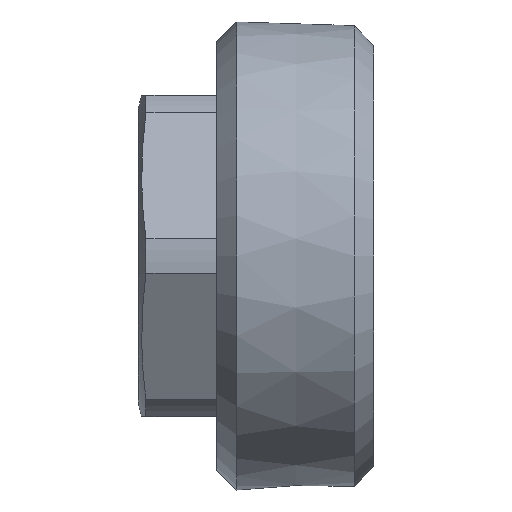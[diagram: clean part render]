
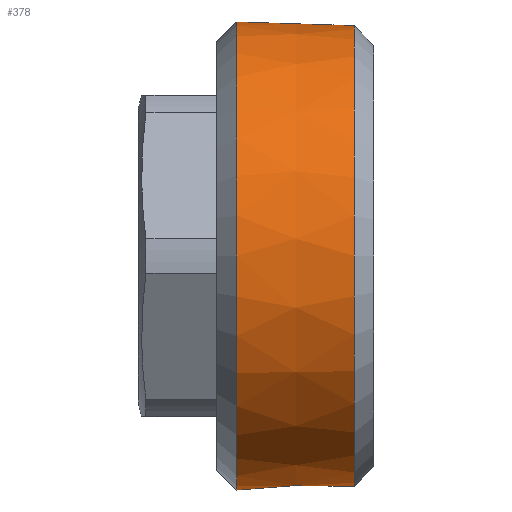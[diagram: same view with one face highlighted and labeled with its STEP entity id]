
A CAD part, left-side view. The second image highlights one B-rep face of the part: STEP entity #378.
In plain terms, the highlighted conical face has half-angle 1.788 degrees and reference radius 29.4 mm.
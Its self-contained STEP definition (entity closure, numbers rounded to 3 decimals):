
#28=CONICAL_SURFACE('',#433,29.4,0.031);
#111=ORIENTED_EDGE('',*,*,#202,.F.);
#112=ORIENTED_EDGE('',*,*,#201,.T.);
#201=EDGE_CURVE('',#249,#249,#275,.T.);
#202=EDGE_CURVE('',#250,#250,#276,.T.);
#249=VERTEX_POINT('',#637);
#250=VERTEX_POINT('',#640);
#275=CIRCLE('',#432,29.4);
#276=CIRCLE('',#434,29.867);
#300=EDGE_LOOP('',(#111));
#301=EDGE_LOOP('',(#112));
#338=FACE_BOUND('',#300,.T.);
#339=FACE_BOUND('',#301,.T.);
#378=ADVANCED_FACE('',(#338,#339),#28,.T.);
#432=AXIS2_PLACEMENT_3D('',#636,#520,#521);
#433=AXIS2_PLACEMENT_3D('',#638,#522,#523);
#434=AXIS2_PLACEMENT_3D('',#639,#524,#525);
#520=DIRECTION('',(0.,1.,0.));
#521=DIRECTION('',(0.,0.,1.));
#522=DIRECTION('',(0.,1.,0.));
#523=DIRECTION('',(0.,0.,1.));
#524=DIRECTION('',(0.,1.,0.));
#525=DIRECTION('',(0.,0.,1.));
#636=CARTESIAN_POINT('',(0.,2.461,0.));
#637=CARTESIAN_POINT('',(0.,2.461,29.4));
#638=CARTESIAN_POINT('',(0.,2.461,0.));
#639=CARTESIAN_POINT('',(0.,17.429,0.));
#640=CARTESIAN_POINT('',(0.,17.429,29.867));
